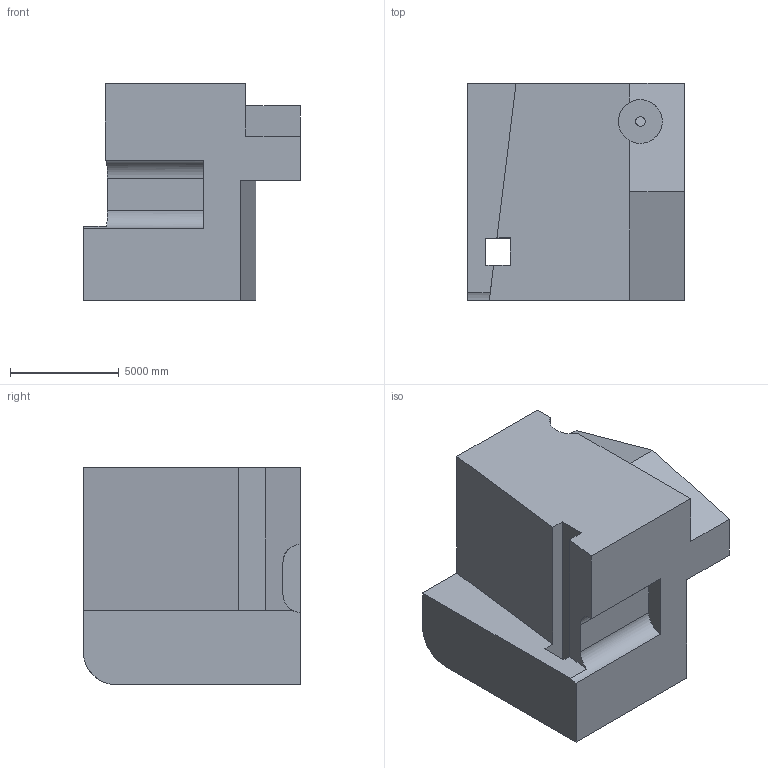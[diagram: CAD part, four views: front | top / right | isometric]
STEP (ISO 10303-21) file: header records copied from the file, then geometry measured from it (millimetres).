
FILE_DESCRIPTION (( 'STEP AP203' ), '1' );
FILE_NAME ('155.STEP', '2022-08-31T14:25:20', ( 'user' ), ( '' ), 'SwSTEP 2.0', 'SolidWorks 2021', '' );
FILE_SCHEMA (( 'CONFIG_CONTROL_DESIGN' ));
Length unit declared in the file: centimetre
Products named in the file (1): 155
Bounding box: 10000 x 10000 x 10000 mm (x, y, z)
Volume: 682989755478.6 mm3; surface area: 579572349.8 mm2
Topology: 1 solids, 1 shells, 35 faces, 96 edges, 64 vertices
Faces by surface type: plane 28, cylinder 7
Entity records: 1181 total; most frequent: CARTESIAN_POINT 217, ORIENTED_EDGE 192, DIRECTION 171, EDGE_CURVE 96, LINE 79, VECTOR 79, VERTEX_POINT 64, AXIS2_PLACEMENT_3D 46
